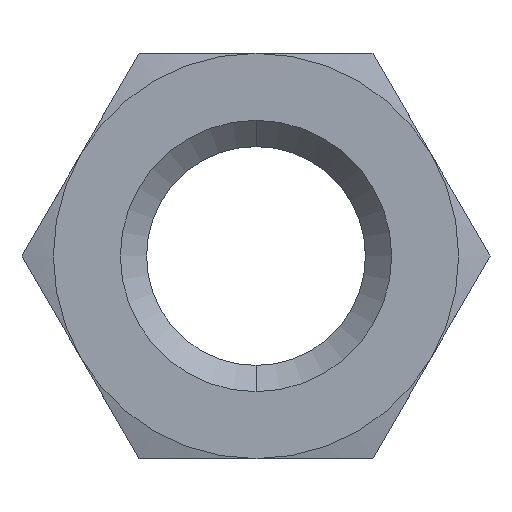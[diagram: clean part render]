
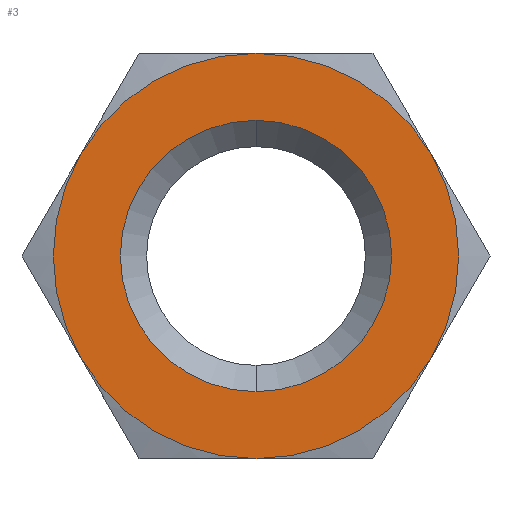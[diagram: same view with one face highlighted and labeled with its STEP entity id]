
A CAD part, left-side view. The second image highlights one B-rep face of the part: STEP entity #3.
In plain terms, the highlighted planar face has unit normal (-1, 0, 0).
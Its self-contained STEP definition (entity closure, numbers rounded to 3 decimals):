
#3 = ADVANCED_FACE ( 'NONE', ( #152, #216 ), #146, .F. ) ;
#4 = EDGE_LOOP ( 'NONE', ( #5, #39 ) ) ;
#5 = ORIENTED_EDGE ( 'NONE', *, *, #38, .F. ) ;
#9 = ORIENTED_EDGE ( 'NONE', *, *, #10, .F. ) ;
#10 = EDGE_CURVE ( 'NONE', #764, #808, #134, .T. ) ;
#32 = ORIENTED_EDGE ( 'NONE', *, *, #33, .F. ) ;
#33 = EDGE_CURVE ( 'NONE', #188, #709, #88, .T. ) ;
#34 = ORIENTED_EDGE ( 'NONE', *, *, #35, .F. ) ;
#35 = EDGE_CURVE ( 'NONE', #714, #188, #124, .T. ) ;
#36 = ORIENTED_EDGE ( 'NONE', *, *, #37, .T. ) ;
#37 = EDGE_CURVE ( 'NONE', #714, #808, #119, .T. ) ;
#38 = EDGE_CURVE ( 'NONE', #782, #779, #114, .T. ) ;
#39 = ORIENTED_EDGE ( 'NONE', *, *, #781, .F. ) ;
#40 = EDGE_LOOP ( 'NONE', ( #41, #43, #32, #34, #36, #9 ) ) ;
#41 = ORIENTED_EDGE ( 'NONE', *, *, #42, .F. ) ;
#42 = EDGE_CURVE ( 'NONE', #726, #764, #109, .T. ) ;
#43 = ORIENTED_EDGE ( 'NONE', *, *, #44, .F. ) ;
#44 = EDGE_CURVE ( 'NONE', #709, #726, #104, .T. ) ;
#80 = DIRECTION ( 'NONE',  ( 0., 0., -1. ) ) ;
#81 = DIRECTION ( 'NONE',  ( 1., 0., 0. ) ) ;
#82 = CARTESIAN_POINT ( 'NONE',  ( 0., 0., 0. ) ) ;
#83 = AXIS2_PLACEMENT_3D ( 'NONE', #82, #81, #80 ) ;
#88 = CIRCLE ( 'NONE', #83, 6.35 ) ;
#100 = DIRECTION ( 'NONE',  ( 0., 0., -1. ) ) ;
#101 = DIRECTION ( 'NONE',  ( 1., 0., 0. ) ) ;
#102 = CARTESIAN_POINT ( 'NONE',  ( 0., 0., 0. ) ) ;
#103 = AXIS2_PLACEMENT_3D ( 'NONE', #102, #101, #100 ) ;
#104 = CIRCLE ( 'NONE', #103, 6.35 ) ;
#105 = DIRECTION ( 'NONE',  ( 0., 0., -1. ) ) ;
#106 = DIRECTION ( 'NONE',  ( 1., 0., 0. ) ) ;
#107 = CARTESIAN_POINT ( 'NONE',  ( 0., 0., 0. ) ) ;
#108 = AXIS2_PLACEMENT_3D ( 'NONE', #107, #106, #105 ) ;
#109 = CIRCLE ( 'NONE', #108, 6.35 ) ;
#110 = DIRECTION ( 'NONE',  ( 0., 0., 1. ) ) ;
#111 = DIRECTION ( 'NONE',  ( -1., 0., 0. ) ) ;
#112 = CARTESIAN_POINT ( 'NONE',  ( 0., 0., 0. ) ) ;
#113 = AXIS2_PLACEMENT_3D ( 'NONE', #112, #111, #110 ) ;
#114 = CIRCLE ( 'NONE', #113, 4.25 ) ;
#115 = DIRECTION ( 'NONE',  ( 0., 0., 1. ) ) ;
#116 = DIRECTION ( 'NONE',  ( -1., 0., 0. ) ) ;
#117 = CARTESIAN_POINT ( 'NONE',  ( 0., 0., 0. ) ) ;
#118 = AXIS2_PLACEMENT_3D ( 'NONE', #117, #116, #115 ) ;
#119 = CIRCLE ( 'NONE', #118, 6.35 ) ;
#120 = DIRECTION ( 'NONE',  ( 0., 0., -1. ) ) ;
#121 = DIRECTION ( 'NONE',  ( 1., 0., 0. ) ) ;
#122 = CARTESIAN_POINT ( 'NONE',  ( 0., 0., 0. ) ) ;
#123 = AXIS2_PLACEMENT_3D ( 'NONE', #122, #121, #120 ) ;
#124 = CIRCLE ( 'NONE', #123, 6.35 ) ;
#131 = DIRECTION ( 'NONE',  ( 0., 0., -1. ) ) ;
#132 = DIRECTION ( 'NONE',  ( 1., 0., 0. ) ) ;
#133 = AXIS2_PLACEMENT_3D ( 'NONE', #140, #132, #131 ) ;
#134 = CIRCLE ( 'NONE', #133, 6.35 ) ;
#140 = CARTESIAN_POINT ( 'NONE',  ( 0., 0., 0. ) ) ;
#142 = DIRECTION ( 'NONE',  ( 0., 0., -1. ) ) ;
#143 = DIRECTION ( 'NONE',  ( 1., 0., 0. ) ) ;
#144 = CARTESIAN_POINT ( 'NONE',  ( 0., 0., -15.231 ) ) ;
#145 = AXIS2_PLACEMENT_3D ( 'NONE', #144, #143, #142 ) ;
#146 = PLANE ( 'NONE',  #145 ) ;
#152 = FACE_BOUND ( 'NONE', #4, .T. ) ;
#188 = VERTEX_POINT ( 'NONE', #267 ) ;
#216 = FACE_OUTER_BOUND ( 'NONE', #40, .T. ) ;
#267 = CARTESIAN_POINT ( 'NONE',  ( 0., -5.499, 3.175 ) ) ;
#369 = CARTESIAN_POINT ( 'NONE',  ( 0., 0., 6.35 ) ) ;
#386 = CARTESIAN_POINT ( 'NONE',  ( 0., -5.499, -3.175 ) ) ;
#451 = CARTESIAN_POINT ( 'NONE',  ( 0., 0., -6.35 ) ) ;
#491 = CARTESIAN_POINT ( 'NONE',  ( 0., 0., 4.25 ) ) ;
#518 = CARTESIAN_POINT ( 'NONE',  ( 0., 5.499, 3.175 ) ) ;
#539 = DIRECTION ( 'NONE',  ( 0., 0., 1. ) ) ;
#540 = DIRECTION ( 'NONE',  ( -1., 0., 0. ) ) ;
#541 = CARTESIAN_POINT ( 'NONE',  ( 0., 0., 0. ) ) ;
#542 = AXIS2_PLACEMENT_3D ( 'NONE', #541, #540, #539 ) ;
#543 = CIRCLE ( 'NONE', #542, 4.25 ) ;
#544 = CARTESIAN_POINT ( 'NONE',  ( 0., 0., -4.25 ) ) ;
#597 = CARTESIAN_POINT ( 'NONE',  ( 0., 5.499, -3.175 ) ) ;
#709 = VERTEX_POINT ( 'NONE', #386 ) ;
#714 = VERTEX_POINT ( 'NONE', #369 ) ;
#726 = VERTEX_POINT ( 'NONE', #451 ) ;
#764 = VERTEX_POINT ( 'NONE', #597 ) ;
#779 = VERTEX_POINT ( 'NONE', #544 ) ;
#781 = EDGE_CURVE ( 'NONE', #779, #782, #543, .T. ) ;
#782 = VERTEX_POINT ( 'NONE', #491 ) ;
#808 = VERTEX_POINT ( 'NONE', #518 ) ;
